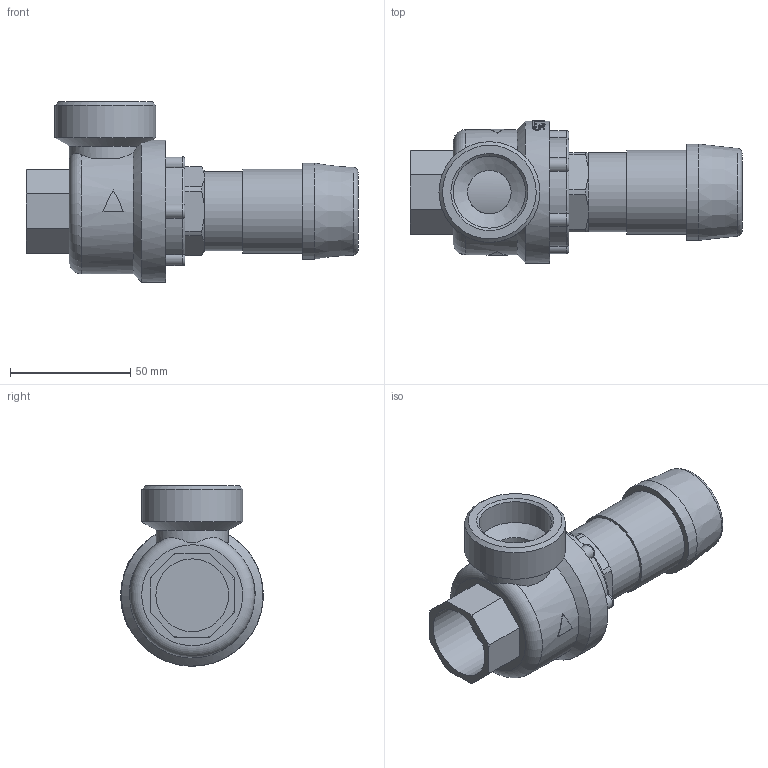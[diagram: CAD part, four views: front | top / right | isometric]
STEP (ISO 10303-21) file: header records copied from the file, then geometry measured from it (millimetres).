
FILE_DESCRIPTION((''),'2;1');
FILE_NAME('C:\Users\hansh\Desktop\0265225_I.stp','2016-10-20T09:32:34',('hansh'),(''),'Autodesk Inventor 2013','Autodesk Inventor 2013','');
FILE_SCHEMA(('CONFIG_CONTROL_DESIGN'));
Length unit declared in the file: millimetre
Products named in the file (1): 0265225_I
Bounding box: 138 x 59.2 x 75 mm (x, y, z)
Volume: 195125 mm3; surface area: 30245.7 mm2
Topology: 1 solids, 1 shells, 193 faces, 503 edges, 327 vertices
Faces by surface type: bspline 63, plane 58, cylinder 38, cone 20, torus 14
Full cylindrical faces by diameter (mm): 18.09 x1, 30 x1, 30.249 x1, 33 x1, 35 x1, 40 x1, 41.91 x1, 59 x1
Entity records: 20765 total; most frequent: CARTESIAN_POINT 16609, ORIENTED_EDGE 962, DIRECTION 651, EDGE_CURVE 481, VERTEX_POINT 321, AXIS2_PLACEMENT_3D 241, EDGE_LOOP 224, FACE_OUTER_BOUND 193
